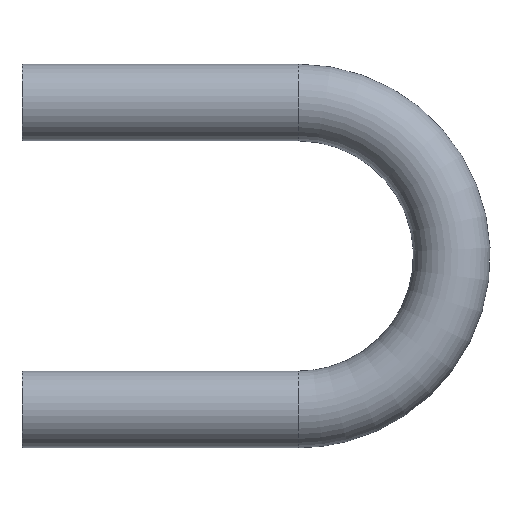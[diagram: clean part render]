
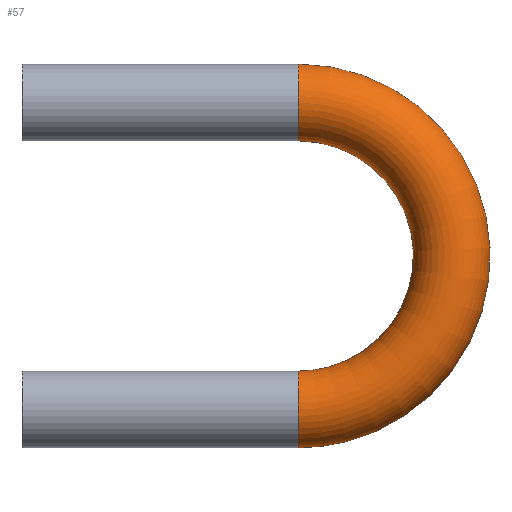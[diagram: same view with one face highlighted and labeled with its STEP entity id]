
A CAD part, front view. The second image highlights one B-rep face of the part: STEP entity #57.
In plain terms, the highlighted toroidal (fillet/blend) face has major radius 25 mm and minor radius 6.25 mm.
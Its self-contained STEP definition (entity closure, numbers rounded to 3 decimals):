
#17=TOROIDAL_SURFACE('',#72,25.,6.25);
#19=FACE_BOUND('',#29,.T.);
#22=FACE_OUTER_BOUND('',#28,.T.);
#28=EDGE_LOOP('',(#48));
#29=EDGE_LOOP('',(#49));
#35=CIRCLE('',#71,6.25);
#36=CIRCLE('',#73,6.25);
#39=VERTEX_POINT('',#102);
#40=VERTEX_POINT('',#105);
#43=EDGE_CURVE('',#39,#39,#35,.T.);
#44=EDGE_CURVE('',#40,#40,#36,.T.);
#48=ORIENTED_EDGE('',*,*,#43,.F.);
#49=ORIENTED_EDGE('',*,*,#44,.T.);
#57=ADVANCED_FACE('',(#22,#19),#17,.T.);
#71=AXIS2_PLACEMENT_3D('',#103,#84,#85);
#72=AXIS2_PLACEMENT_3D('',#104,#86,#87);
#73=AXIS2_PLACEMENT_3D('',#106,#88,#89);
#84=DIRECTION('center_axis',(-1.,0.,0.));
#85=DIRECTION('ref_axis',(0.,1.,0.));
#86=DIRECTION('center_axis',(0.,1.,0.));
#87=DIRECTION('ref_axis',(0.,0.,1.));
#88=DIRECTION('center_axis',(1.,0.,0.));
#89=DIRECTION('ref_axis',(0.,1.,0.));
#102=CARTESIAN_POINT('',(0.,-6.25,0.));
#103=CARTESIAN_POINT('Origin',(0.,0.,0.));
#104=CARTESIAN_POINT('Origin',(0.,0.,25.));
#105=CARTESIAN_POINT('',(0.,-6.25,50.));
#106=CARTESIAN_POINT('Origin',(0.,0.,50.));
